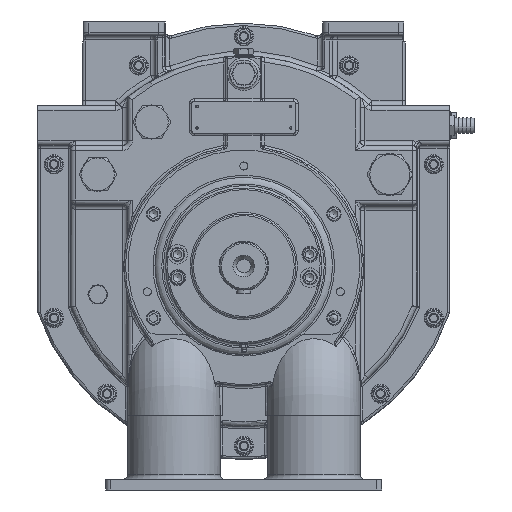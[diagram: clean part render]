
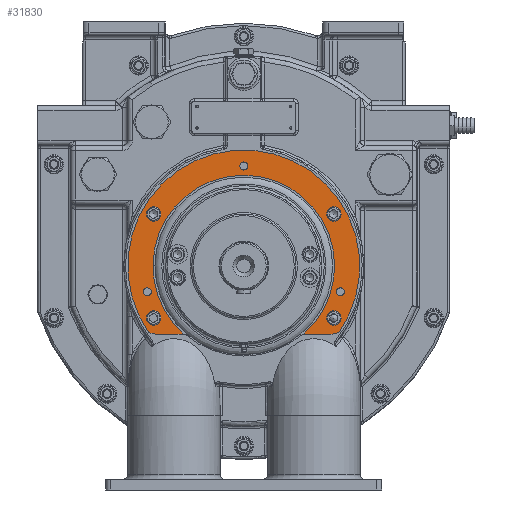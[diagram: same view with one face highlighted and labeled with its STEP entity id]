
A CAD part, left-side view. The second image highlights one B-rep face of the part: STEP entity #31830.
In plain terms, the highlighted planar face has unit normal (-1, 0, 0).
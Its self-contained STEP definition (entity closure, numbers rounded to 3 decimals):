
#1380=FACE_BOUND('',#4852,.T.);
#1381=FACE_BOUND('',#4853,.T.);
#1382=FACE_BOUND('',#4854,.T.);
#1383=FACE_BOUND('',#4855,.T.);
#1384=FACE_BOUND('',#4856,.T.);
#1385=FACE_BOUND('',#4857,.T.);
#1386=FACE_BOUND('',#4858,.T.);
#1836=PLANE('',#34283);
#2860=FACE_OUTER_BOUND('',#4851,.T.);
#4851=EDGE_LOOP('',(#22236,#22237,#22238,#22239,#22240,#22241,#22242,#22243));
#4852=EDGE_LOOP('',(#22244));
#4853=EDGE_LOOP('',(#22245));
#4854=EDGE_LOOP('',(#22246));
#4855=EDGE_LOOP('',(#22247));
#4856=EDGE_LOOP('',(#22248));
#4857=EDGE_LOOP('',(#22249));
#4858=EDGE_LOOP('',(#22250));
#7286=CIRCLE('',#34101,9.);
#7291=CIRCLE('',#34116,9.);
#7296=CIRCLE('',#34131,9.);
#7301=CIRCLE('',#34146,9.);
#7353=CIRCLE('',#34264,6.);
#7357=CIRCLE('',#34270,6.);
#7360=CIRCLE('',#34275,5.053);
#7362=CIRCLE('',#34278,5.053);
#7364=CIRCLE('',#34281,5.053);
#7366=CIRCLE('',#34284,20.);
#7367=CIRCLE('',#34285,145.);
#7368=CIRCLE('',#34286,20.);
#7369=CIRCLE('',#34287,113.5);
#9129=LINE('',#50134,#10843);
#9139=LINE('',#50185,#10853);
#10843=VECTOR('',#39388,10.);
#10853=VECTOR('',#39444,10.);
#12809=VERTEX_POINT('',#49491);
#12827=VERTEX_POINT('',#49559);
#12845=VERTEX_POINT('',#49627);
#12863=VERTEX_POINT('',#49695);
#12970=VERTEX_POINT('',#50131);
#12971=VERTEX_POINT('',#50133);
#12975=VERTEX_POINT('',#50143);
#12979=VERTEX_POINT('',#50155);
#12980=VERTEX_POINT('',#50157);
#12983=VERTEX_POINT('',#50166);
#12985=VERTEX_POINT('',#50172);
#12987=VERTEX_POINT('',#50178);
#12989=VERTEX_POINT('',#50184);
#12990=VERTEX_POINT('',#50186);
#12991=VERTEX_POINT('',#50188);
#16054=EDGE_CURVE('',#12809,#12809,#7286,.T.);
#16080=EDGE_CURVE('',#12827,#12827,#7291,.T.);
#16106=EDGE_CURVE('',#12845,#12845,#7296,.T.);
#16132=EDGE_CURVE('',#12863,#12863,#7301,.T.);
#16293=EDGE_CURVE('',#12970,#12971,#9129,.T.);
#16299=EDGE_CURVE('',#12975,#12970,#7353,.T.);
#16305=EDGE_CURVE('',#12979,#12980,#7357,.T.);
#16309=EDGE_CURVE('',#12983,#12983,#7360,.T.);
#16312=EDGE_CURVE('',#12985,#12985,#7362,.T.);
#16315=EDGE_CURVE('',#12987,#12987,#7364,.T.);
#16318=EDGE_CURVE('',#12989,#12979,#9139,.T.);
#16319=EDGE_CURVE('',#12990,#12989,#7366,.T.);
#16320=EDGE_CURVE('',#12991,#12990,#7367,.T.);
#16321=EDGE_CURVE('',#12971,#12991,#7368,.T.);
#16322=EDGE_CURVE('',#12980,#12975,#7369,.T.);
#22236=ORIENTED_EDGE('',*,*,#16305,.F.);
#22237=ORIENTED_EDGE('',*,*,#16318,.F.);
#22238=ORIENTED_EDGE('',*,*,#16319,.F.);
#22239=ORIENTED_EDGE('',*,*,#16320,.F.);
#22240=ORIENTED_EDGE('',*,*,#16321,.F.);
#22241=ORIENTED_EDGE('',*,*,#16293,.F.);
#22242=ORIENTED_EDGE('',*,*,#16299,.F.);
#22243=ORIENTED_EDGE('',*,*,#16322,.F.);
#22244=ORIENTED_EDGE('',*,*,#16054,.T.);
#22245=ORIENTED_EDGE('',*,*,#16080,.T.);
#22246=ORIENTED_EDGE('',*,*,#16106,.T.);
#22247=ORIENTED_EDGE('',*,*,#16132,.T.);
#22248=ORIENTED_EDGE('',*,*,#16309,.T.);
#22249=ORIENTED_EDGE('',*,*,#16312,.T.);
#22250=ORIENTED_EDGE('',*,*,#16315,.T.);
#31830=ADVANCED_FACE('',(#2860,#1380,#1381,#1382,#1383,#1384,#1385,#1386),
#1836,.F.);
#34101=AXIS2_PLACEMENT_3D('',#49492,#38952,#38953);
#34116=AXIS2_PLACEMENT_3D('',#49560,#38996,#38997);
#34131=AXIS2_PLACEMENT_3D('',#49628,#39040,#39041);
#34146=AXIS2_PLACEMENT_3D('',#49696,#39084,#39085);
#34264=AXIS2_PLACEMENT_3D('',#50145,#39398,#39399);
#34270=AXIS2_PLACEMENT_3D('',#50158,#39412,#39413);
#34275=AXIS2_PLACEMENT_3D('',#50167,#39423,#39424);
#34278=AXIS2_PLACEMENT_3D('',#50173,#39430,#39431);
#34281=AXIS2_PLACEMENT_3D('',#50179,#39437,#39438);
#34283=AXIS2_PLACEMENT_3D('',#50183,#39442,#39443);
#34284=AXIS2_PLACEMENT_3D('',#50187,#39445,#39446);
#34285=AXIS2_PLACEMENT_3D('',#50189,#39447,#39448);
#34286=AXIS2_PLACEMENT_3D('',#50190,#39449,#39450);
#34287=AXIS2_PLACEMENT_3D('',#50191,#39451,#39452);
#38952=DIRECTION('center_axis',(1.,0.,0.));
#38953=DIRECTION('ref_axis',(0.,1.,0.));
#38996=DIRECTION('center_axis',(1.,0.,0.));
#38997=DIRECTION('ref_axis',(0.,1.,0.));
#39040=DIRECTION('center_axis',(1.,0.,0.));
#39041=DIRECTION('ref_axis',(0.,1.,0.));
#39084=DIRECTION('center_axis',(1.,0.,0.));
#39085=DIRECTION('ref_axis',(0.,1.,0.));
#39388=DIRECTION('',(0.,1.,0.));
#39398=DIRECTION('center_axis',(-1.,0.,0.));
#39399=DIRECTION('ref_axis',(0.,-0.341,0.94));
#39412=DIRECTION('center_axis',(-1.,0.,0.));
#39413=DIRECTION('ref_axis',(0.,0.341,0.94));
#39423=DIRECTION('center_axis',(1.,0.,0.));
#39424=DIRECTION('ref_axis',(0.,1.,0.));
#39430=DIRECTION('center_axis',(1.,0.,0.));
#39431=DIRECTION('ref_axis',(0.,1.,0.));
#39437=DIRECTION('center_axis',(1.,0.,0.));
#39438=DIRECTION('ref_axis',(0.,1.,0.));
#39442=DIRECTION('center_axis',(1.,0.,0.));
#39443=DIRECTION('ref_axis',(0.,-1.,0.));
#39444=DIRECTION('',(0.,1.,0.));
#39445=DIRECTION('center_axis',(1.,0.,0.));
#39446=DIRECTION('ref_axis',(0.,-0.496,-0.868));
#39447=DIRECTION('center_axis',(1.,0.,0.));
#39448=DIRECTION('ref_axis',(0.,1.,0.));
#39449=DIRECTION('center_axis',(1.,0.,0.));
#39450=DIRECTION('ref_axis',(0.,0.496,-0.868));
#39451=DIRECTION('center_axis',(-1.,0.,0.));
#39452=DIRECTION('ref_axis',(0.,-1.,0.));
#49491=CARTESIAN_POINT('',(-264.5,103.583,-96.));
#49492=CARTESIAN_POINT('Origin',(-264.5,112.583,-96.));
#49559=CARTESIAN_POINT('',(-264.5,103.583,34.));
#49560=CARTESIAN_POINT('Origin',(-264.5,112.583,34.));
#49627=CARTESIAN_POINT('',(-264.5,-121.583,34.));
#49628=CARTESIAN_POINT('Origin',(-264.5,-112.583,34.));
#49695=CARTESIAN_POINT('',(-264.5,-121.583,-96.));
#49696=CARTESIAN_POINT('Origin',(-264.5,-112.583,-96.));
#50131=CARTESIAN_POINT('',(-264.5,75.903,-116.));
#50133=CARTESIAN_POINT('',(-264.5,110.268,-116.));
#50134=CARTESIAN_POINT('',(-264.5,36.849,-116.));
#50143=CARTESIAN_POINT('',(-264.5,75.163,-116.046));
#50145=CARTESIAN_POINT('Origin',(-264.5,75.903,-122.));
#50155=CARTESIAN_POINT('',(-264.5,-75.903,-116.));
#50157=CARTESIAN_POINT('',(-264.5,-75.163,-116.046));
#50158=CARTESIAN_POINT('Origin',(-264.5,-75.903,-122.));
#50166=CARTESIAN_POINT('',(-264.5,-5.053,94.));
#50167=CARTESIAN_POINT('Origin',(-264.5,0.,
94.));
#50172=CARTESIAN_POINT('',(-264.5,-125.794,-63.352));
#50173=CARTESIAN_POINT('Origin',(-264.5,-120.741,-63.352));
#50178=CARTESIAN_POINT('',(-264.5,115.688,-63.352));
#50179=CARTESIAN_POINT('Origin',(-264.5,120.741,-63.352));
#50183=CARTESIAN_POINT('Origin',(-264.5,0.,
-31.));
#50184=CARTESIAN_POINT('',(-264.5,-110.268,-116.));
#50185=CARTESIAN_POINT('',(-264.5,-60.578,-116.));
#50186=CARTESIAN_POINT('',(-264.5,-118.849,-114.065));
#50187=CARTESIAN_POINT('Origin',(-264.5,-110.268,-96.));
#50188=CARTESIAN_POINT('',(-264.5,118.849,-114.065));
#50189=CARTESIAN_POINT('Origin',(-264.5,0.,
-31.));
#50190=CARTESIAN_POINT('Origin',(-264.5,110.268,-96.));
#50191=CARTESIAN_POINT('Origin',(-264.5,0.,
-31.));
